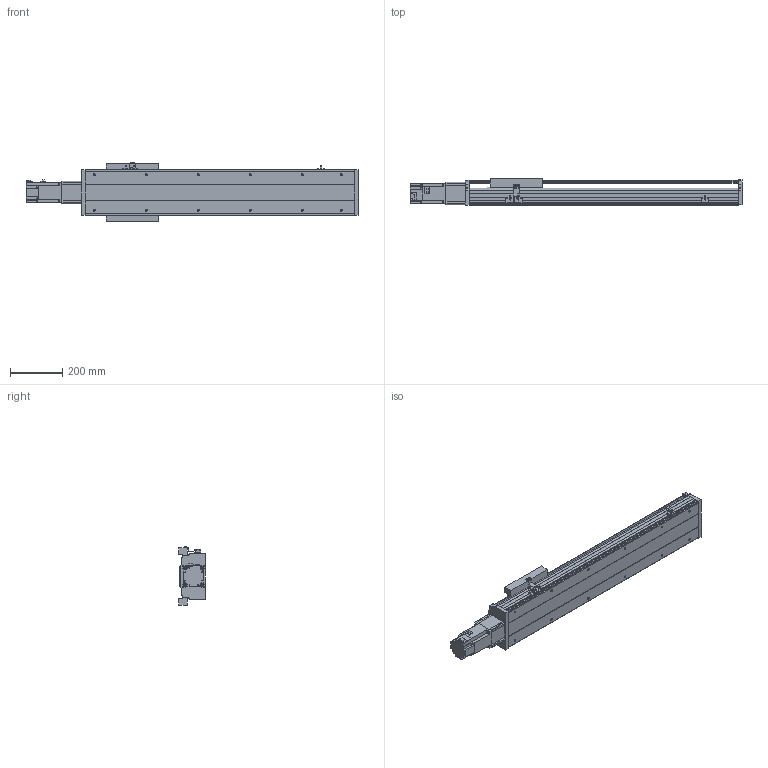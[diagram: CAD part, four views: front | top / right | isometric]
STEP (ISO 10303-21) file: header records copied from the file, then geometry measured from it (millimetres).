
FILE_DESCRIPTION(/* description */ ('STEP AP214'),/* implementation_level */ '2;1');
FILE_NAME(/* name */ 'PSS200-L10-S700-BC-T75-C1-N(0)',/* time_stamp */ '2022-06-06T04:34:15+02:00',/* author */ ('License CC BY-ND 4.0'),/* organization */ ('CADENAS'),/* preprocessor_version */ 'ST-DEVELOPER v18.102',/* originating_system */ 'PARTsolutions',/* authorisation */ ' ');
FILE_SCHEMA (('AUTOMOTIVE_DESIGN {1 0 10303 214 3 1 1}'));
Length unit declared in the file: millimetre
Products named in the file (8): PSS200-L10-S700-BC-T75-C1-N(0); PSS200-S700-BC-N_S; T75-p1; PSS200BC-N_h; PSS200-N_sensor; PSS200-BC-C1-N_sl; PSS200-N_Q; PSS200-S700-BC-C1-N_body
Assembly tree (9 placements, depth 2):
  PSS200-L10-S700-BC-T75-C1-N(0)
    PSS200-S700-BC-N_S
    T75-p1
    PSS200BC-N_h
    PSS200-N_sensor  x3
    PSS200-BC-C1-N_sl
    PSS200-N_Q
    PSS200-S700-BC-C1-N_body
Bounding box: 1276.3 x 101.5 x 223.86 mm (x, y, z)
Volume: 7262565.3 mm3; surface area: 1790775.5 mm2
Topology: 9 solids, 9 shells, 577 faces, 1543 edges, 1024 vertices
Faces by surface type: plane 439, cylinder 118, cone 20
Full cylindrical faces by diameter (mm): 4 x2, 4.5 x4, 6 x11, 6.647 x16, 8 x8, 10 x6, 25 x1, 67 x1, 70 x1
Entity records: 16058 total; most frequent: CARTESIAN_POINT 2780, DIRECTION 2641, ORIENTED_EDGE 2630, EDGE_CURVE 1315, LINE 1051, VECTOR 1051, VERTEX_POINT 914, AXIS2_PLACEMENT_3D 795
